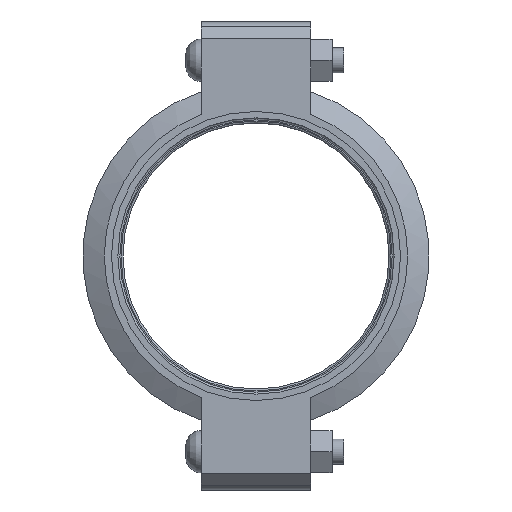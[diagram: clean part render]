
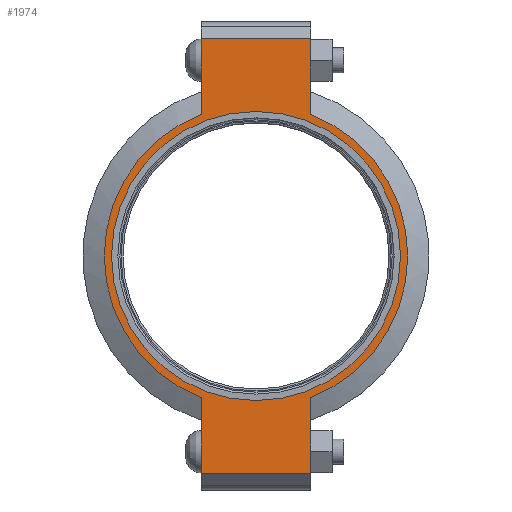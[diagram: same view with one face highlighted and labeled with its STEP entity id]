
A CAD part, left-side view. The second image highlights one B-rep face of the part: STEP entity #1974.
In plain terms, the highlighted planar face has unit normal (-1, 0, 0) as drawn and (0, 0, 1) by its records, which use the part's own axes.
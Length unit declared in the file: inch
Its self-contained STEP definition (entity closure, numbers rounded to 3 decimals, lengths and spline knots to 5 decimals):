
#136=LINE('',#3502,#233);
#144=LINE('',#3538,#241);
#151=LINE('',#3559,#248);
#160=LINE('',#3591,#257);
#161=LINE('',#3595,#258);
#162=LINE('',#3597,#259);
#233=VECTOR('',#2857,0.3937);
#241=VECTOR('',#2873,0.3937);
#248=VECTOR('',#2892,0.3937);
#257=VECTOR('',#2917,0.3937);
#258=VECTOR('',#2922,0.3937);
#259=VECTOR('',#2923,0.3937);
#316=FACE_BOUND('',#570,.T.);
#361=PLANE('',#2318);
#450=FACE_OUTER_BOUND('',#569,.T.);
#569=EDGE_LOOP('',(#1693,#1694,#1695,#1696,#1697,#1698,#1699,#1700));
#570=EDGE_LOOP('',(#1701));
#746=CIRCLE('',#2319,4.53);
#747=CIRCLE('',#2320,4.53);
#748=CIRCLE('',#2321,4.3125);
#914=VERTEX_POINT('',#3499);
#915=VERTEX_POINT('',#3501);
#926=VERTEX_POINT('',#3533);
#927=VERTEX_POINT('',#3537);
#934=VERTEX_POINT('',#3556);
#935=VERTEX_POINT('',#3558);
#945=VERTEX_POINT('',#3594);
#946=VERTEX_POINT('',#3596);
#947=VERTEX_POINT('',#3599);
#1163=EDGE_CURVE('',#915,#914,#136,.T.);
#1177=EDGE_CURVE('',#927,#926,#144,.T.);
#1187=EDGE_CURVE('',#935,#934,#151,.T.);
#1202=EDGE_CURVE('',#927,#914,#160,.T.);
#1203=EDGE_CURVE('',#926,#935,#746,.T.);
#1204=EDGE_CURVE('',#945,#934,#161,.T.);
#1205=EDGE_CURVE('',#945,#946,#162,.T.);
#1206=EDGE_CURVE('',#946,#915,#747,.T.);
#1207=EDGE_CURVE('',#947,#947,#748,.T.);
#1693=ORIENTED_EDGE('',*,*,#1202,.F.);
#1694=ORIENTED_EDGE('',*,*,#1177,.T.);
#1695=ORIENTED_EDGE('',*,*,#1203,.T.);
#1696=ORIENTED_EDGE('',*,*,#1187,.T.);
#1697=ORIENTED_EDGE('',*,*,#1204,.F.);
#1698=ORIENTED_EDGE('',*,*,#1205,.T.);
#1699=ORIENTED_EDGE('',*,*,#1206,.T.);
#1700=ORIENTED_EDGE('',*,*,#1163,.T.);
#1701=ORIENTED_EDGE('',*,*,#1207,.T.);
#1974=ADVANCED_FACE('',(#450,#316),#361,.T.);
#2318=AXIS2_PLACEMENT_3D('',#3592,#2918,#2919);
#2319=AXIS2_PLACEMENT_3D('',#3593,#2920,#2921);
#2320=AXIS2_PLACEMENT_3D('',#3598,#2924,#2925);
#2321=AXIS2_PLACEMENT_3D('',#3600,#2926,#2927);
#2857=DIRECTION('',(1.,0.,0.));
#2873=DIRECTION('',(-1.,0.,0.));
#2892=DIRECTION('',(-1.,0.,0.));
#2917=DIRECTION('',(0.,-1.,0.));
#2918=DIRECTION('center_axis',(0.,0.,1.));
#2919=DIRECTION('ref_axis',(-1.,0.,0.));
#2920=DIRECTION('center_axis',(0.,0.,1.));
#2921=DIRECTION('ref_axis',(1.,0.,0.));
#2922=DIRECTION('',(0.,1.,0.));
#2923=DIRECTION('',(1.,0.,0.));
#2924=DIRECTION('center_axis',(0.,0.,1.));
#2925=DIRECTION('ref_axis',(1.,0.,0.));
#2926=DIRECTION('center_axis',(0.,0.,-1.));
#2927=DIRECTION('ref_axis',(1.,0.,0.));
#3499=CARTESIAN_POINT('',(6.485,-1.63,1.16));
#3501=CARTESIAN_POINT('',(4.22658,-1.63,1.16));
#3502=CARTESIAN_POINT('',(6.985,-1.63,1.16));
#3533=CARTESIAN_POINT('',(4.22658,1.63,1.16));
#3537=CARTESIAN_POINT('',(6.485,1.63,1.16));
#3538=CARTESIAN_POINT('',(-6.985,1.63,1.16));
#3556=CARTESIAN_POINT('',(-6.485,1.63,1.16));
#3558=CARTESIAN_POINT('',(-4.22658,1.63,1.16));
#3559=CARTESIAN_POINT('',(-6.985,1.63,1.16));
#3591=CARTESIAN_POINT('',(6.485,-0.815,1.16));
#3592=CARTESIAN_POINT('Origin',(0.,0.,
1.16));
#3593=CARTESIAN_POINT('Origin',(0.,0.,1.16));
#3594=CARTESIAN_POINT('',(-6.485,-1.63,1.16));
#3595=CARTESIAN_POINT('',(-6.485,0.815,1.16));
#3596=CARTESIAN_POINT('',(-4.22658,-1.63,1.16));
#3597=CARTESIAN_POINT('',(6.985,-1.63,1.16));
#3598=CARTESIAN_POINT('Origin',(0.,0.,1.16));
#3599=CARTESIAN_POINT('',(-4.3125,0.,1.16));
#3600=CARTESIAN_POINT('Origin',(0.,0.,1.16));
